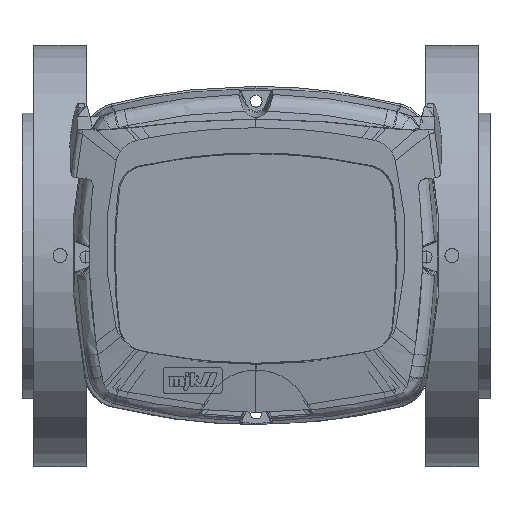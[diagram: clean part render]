
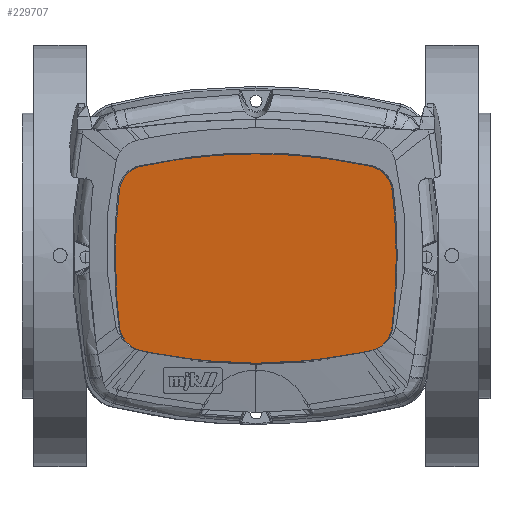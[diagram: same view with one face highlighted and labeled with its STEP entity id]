
A CAD part, top view. The second image highlights one B-rep face of the part: STEP entity #229707.
In plain terms, the highlighted planar face has unit normal (0, -0.107, 0.994) as drawn and (0, -0.064, 0.998) by its records, which use the part's own axes.
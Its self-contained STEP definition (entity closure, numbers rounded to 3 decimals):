
#221258=CARTESIAN_POINT('',(49.216,-44.38,5.882));
#221259=VERTEX_POINT('',#221258);
#221267=CARTESIAN_POINT('',(0.272,-49.704,5.541));
#221268=VERTEX_POINT('',#221267);
#221269=CARTESIAN_POINT('',(0.272,177.009,20.081));
#221270=DIRECTION('',(0.,0.064,-0.998));
#221271=DIRECTION('',(0.,-0.998,-0.064));
#221272=AXIS2_PLACEMENT_3D('',#221269,#221270,#221271);
#221273=CIRCLE('',#221272,227.179);
#221274=EDGE_CURVE('',#221259,#221268,#221273,.T.);
#229553=CARTESIAN_POINT('',(-48.671,34.747,10.957));
#229554=VERTEX_POINT('',#229553);
#229561=CARTESIAN_POINT('',(0.272,40.071,11.299));
#229562=VERTEX_POINT('',#229561);
#229563=CARTESIAN_POINT('',(0.277,-186.686,-3.245));
#229564=DIRECTION('',(0.,-0.064,0.998));
#229565=DIRECTION('',(-0.215,0.975,0.063));
#229566=AXIS2_PLACEMENT_3D('',#229563,#229564,#229565);
#229567=CIRCLE('',#229566,227.223);
#229568=EDGE_CURVE('',#229562,#229554,#229567,.T.);
#229579=CARTESIAN_POINT('',(60.272,-4.817,8.42));
#229580=DIRECTION('',(0.0,-0.064,0.998));
#229581=DIRECTION('',(1.0,0.0,0.0));
#229582=AXIS2_PLACEMENT_3D('',#229579,#229580,#229581);
#229583=PLANE('',#229582);
#229584=CARTESIAN_POINT('',(-57.971,24.484,10.299));
#229585=VERTEX_POINT('',#229584);
#229586=CARTESIAN_POINT('',(-46.094,23.093,10.21));
#229587=DIRECTION('',(0.,-0.064,0.998));
#229588=DIRECTION('',(0.601,-0.798,-0.051));
#229589=AXIS2_PLACEMENT_3D('',#229586,#229587,#229588);
#229590=ELLIPSE('',#229589,11.959,11.958);
#229591=EDGE_CURVE('',#229554,#229585,#229590,.T.);
#229592=ORIENTED_EDGE('',*,*,#229591,.T.);
#229593=CARTESIAN_POINT('',(-59.728,-4.817,8.42));
#229594=VERTEX_POINT('',#229593);
#229595=CARTESIAN_POINT('',(186.538,-4.817,8.42));
#229596=DIRECTION('',(0.,-0.064,0.998));
#229597=DIRECTION('',(-1.,0.,0.));
#229598=AXIS2_PLACEMENT_3D('',#229595,#229596,#229597);
#229599=CIRCLE('',#229598,246.265);
#229600=EDGE_CURVE('',#229585,#229594,#229599,.T.);
#229601=ORIENTED_EDGE('',*,*,#229600,.T.);
#229602=CARTESIAN_POINT('',(-48.671,-44.38,5.882));
#229603=VERTEX_POINT('',#229602);
#229604=CARTESIAN_POINT('',(-59.728,-4.817,8.42));
#229605=CARTESIAN_POINT('',(-59.728,-12.738,7.912));
#229606=CARTESIAN_POINT('',(-59.344,-20.657,7.404));
#229607=CARTESIAN_POINT('',(-58.577,-28.545,6.898));
#229608=CARTESIAN_POINT('',(-58.396,-30.406,6.778));
#229609=CARTESIAN_POINT('',(-58.194,-32.264,6.659));
#229610=CARTESIAN_POINT('',(-57.971,-34.117,6.54));
#229611=CARTESIAN_POINT('',(-57.97,-34.128,6.54));
#229612=CARTESIAN_POINT('',(-57.969,-34.139,6.539));
#229613=CARTESIAN_POINT('',(-57.967,-34.15,6.538));
#229614=CARTESIAN_POINT('',(-57.858,-35.055,6.48));
#229615=CARTESIAN_POINT('',(-57.658,-35.969,6.422));
#229616=CARTESIAN_POINT('',(-57.253,-37.016,6.354));
#229617=CARTESIAN_POINT('',(-56.951,-37.8,6.304));
#229618=CARTESIAN_POINT('',(-56.492,-38.701,6.246));
#229619=CARTESIAN_POINT('',(-55.941,-39.499,6.195));
#229620=CARTESIAN_POINT('',(-54.653,-41.363,6.076));
#229621=CARTESIAN_POINT('',(-52.821,-42.851,5.98));
#229622=CARTESIAN_POINT('',(-50.727,-43.729,5.924));
#229623=CARTESIAN_POINT('',(-50.429,-43.854,5.916));
#229624=CARTESIAN_POINT('',(-50.13,-43.965,5.909));
#229625=CARTESIAN_POINT('',(-49.817,-44.068,5.902));
#229626=CARTESIAN_POINT('',(-49.517,-44.166,5.896));
#229627=CARTESIAN_POINT('',(-49.119,-44.282,5.888));
#229628=CARTESIAN_POINT('',(-48.671,-44.38,5.882));
#229629=B_SPLINE_CURVE_WITH_KNOTS('',3,(#229604,#229605,#229606,#229607,#229608,#229609,#229610,#229611,#229612,#229613,#229614,#229615,#229616,#229617,#229618,#229619,#229620,#229621,#229622,#229623,#229624,#229625,#229626,#229627,#229628),.UNSPECIFIED.,.F.,.U.,(4,3,3,3,3,3,3,3,4),(1.361,1.767,1.863,1.864,1.911,1.946,2.027,2.039,2.05),.UNSPECIFIED.);
#229630=EDGE_CURVE('',#229594,#229603,#229629,.T.);
#229631=ORIENTED_EDGE('',*,*,#229630,.T.);
#229632=CARTESIAN_POINT('',(0.272,177.009,20.081));
#229633=DIRECTION('',(0.,-0.064,0.998));
#229634=DIRECTION('',(0.,-0.998,-0.064));
#229635=AXIS2_PLACEMENT_3D('',#229632,#229633,#229634);
#229636=CIRCLE('',#229635,227.179);
#229637=EDGE_CURVE('',#229603,#221268,#229636,.T.);
#229638=ORIENTED_EDGE('',*,*,#229637,.T.);
#229639=ORIENTED_EDGE('',*,*,#221274,.F.);
#229640=CARTESIAN_POINT('',(60.272,-4.817,8.42));
#229641=VERTEX_POINT('',#229640);
#229642=CARTESIAN_POINT('',(60.272,-4.817,8.42));
#229643=CARTESIAN_POINT('',(60.272,-9.712,8.106));
#229644=CARTESIAN_POINT('',(60.126,-14.606,7.792));
#229645=CARTESIAN_POINT('',(59.833,-19.492,7.478));
#229646=CARTESIAN_POINT('',(59.657,-22.429,7.29));
#229647=CARTESIAN_POINT('',(59.428,-25.363,7.102));
#229648=CARTESIAN_POINT('',(59.146,-28.293,6.914));
#229649=CARTESIAN_POINT('',(58.969,-30.134,6.796));
#229650=CARTESIAN_POINT('',(58.77,-31.979,6.678));
#229651=CARTESIAN_POINT('',(58.553,-33.805,6.56));
#229652=CARTESIAN_POINT('',(58.541,-33.909,6.554));
#229653=CARTESIAN_POINT('',(58.528,-34.013,6.547));
#229654=CARTESIAN_POINT('',(58.516,-34.117,6.54));
#229655=CARTESIAN_POINT('',(58.514,-34.128,6.54));
#229656=CARTESIAN_POINT('',(58.513,-34.139,6.539));
#229657=CARTESIAN_POINT('',(58.512,-34.15,6.538));
#229658=CARTESIAN_POINT('',(58.386,-35.197,6.471));
#229659=CARTESIAN_POINT('',(58.145,-36.258,6.403));
#229660=CARTESIAN_POINT('',(57.59,-37.521,6.322));
#229661=CARTESIAN_POINT('',(57.282,-38.221,6.277));
#229662=CARTESIAN_POINT('',(56.857,-38.982,6.228));
#229663=CARTESIAN_POINT('',(56.374,-39.658,6.185));
#229664=CARTESIAN_POINT('',(55.551,-40.809,6.111));
#229665=CARTESIAN_POINT('',(54.517,-41.816,6.047));
#229666=CARTESIAN_POINT('',(53.343,-42.609,5.996));
#229667=CARTESIAN_POINT('',(52.524,-43.162,5.96));
#229668=CARTESIAN_POINT('',(51.64,-43.612,5.931));
#229669=CARTESIAN_POINT('',(50.708,-43.948,5.91));
#229670=CARTESIAN_POINT('',(50.42,-44.052,5.903));
#229671=CARTESIAN_POINT('',(50.128,-44.149,5.897));
#229672=CARTESIAN_POINT('',(49.732,-44.255,5.89));
#229673=CARTESIAN_POINT('',(49.57,-44.298,5.887));
#229674=CARTESIAN_POINT('',(49.397,-44.34,5.885));
#229675=CARTESIAN_POINT('',(49.216,-44.38,5.882));
#229676=B_SPLINE_CURVE_WITH_KNOTS('',3,(#229642,#229643,#229644,#229645,#229646,#229647,#229648,#229649,#229650,#229651,#229652,#229653,#229654,#229655,#229656,#229657,#229658,#229659,#229660,#229661,#229662,#229663,#229664,#229665,#229666,#229667,#229668,#229669,#229670,#229671,#229672,#229673,#229674,#229675),.UNSPECIFIED.,.F.,.U.,(4,3,3,3,3,3,3,3,3,3,3,4),(-10.59,-8.491,-7.229,-6.437,-6.392,-6.387,-5.934,-5.684,-5.257,-4.959,-4.867,-4.829),.UNSPECIFIED.);
#229677=EDGE_CURVE('',#229641,#221259,#229676,.T.);
#229678=ORIENTED_EDGE('',*,*,#229677,.F.);
#229679=CARTESIAN_POINT('',(58.516,24.484,10.299));
#229680=VERTEX_POINT('',#229679);
#229681=CARTESIAN_POINT('',(-185.993,-4.817,8.42));
#229682=DIRECTION('',(0.,0.064,-0.998));
#229683=DIRECTION('',(1.,0.,0.));
#229684=AXIS2_PLACEMENT_3D('',#229681,#229682,#229683);
#229685=CIRCLE('',#229684,246.265);
#229686=EDGE_CURVE('',#229680,#229641,#229685,.T.);
#229687=ORIENTED_EDGE('',*,*,#229686,.F.);
#229688=CARTESIAN_POINT('',(49.216,34.747,10.957));
#229689=VERTEX_POINT('',#229688);
#229690=CARTESIAN_POINT('',(46.639,23.093,10.21));
#229691=DIRECTION('',(0.,0.064,-0.998));
#229692=DIRECTION('',(0.601,0.798,0.051));
#229693=AXIS2_PLACEMENT_3D('',#229690,#229691,#229692);
#229694=ELLIPSE('',#229693,11.959,11.958);
#229695=EDGE_CURVE('',#229689,#229680,#229694,.T.);
#229696=ORIENTED_EDGE('',*,*,#229695,.F.);
#229697=CARTESIAN_POINT('',(0.267,-186.686,-3.245));
#229698=DIRECTION('',(0.,0.064,-0.998));
#229699=DIRECTION('',(0.215,0.975,0.063));
#229700=AXIS2_PLACEMENT_3D('',#229697,#229698,#229699);
#229701=CIRCLE('',#229700,227.223);
#229702=EDGE_CURVE('',#229562,#229689,#229701,.T.);
#229703=ORIENTED_EDGE('',*,*,#229702,.F.);
#229704=ORIENTED_EDGE('',*,*,#229568,.T.);
#229705=EDGE_LOOP('',(#229592,#229601,#229631,#229638,#229639,#229678,#229687,#229696,#229703,#229704));
#229706=FACE_OUTER_BOUND('',#229705,.T.);
#229707=ADVANCED_FACE('',(#229706),#229583,.T.);
